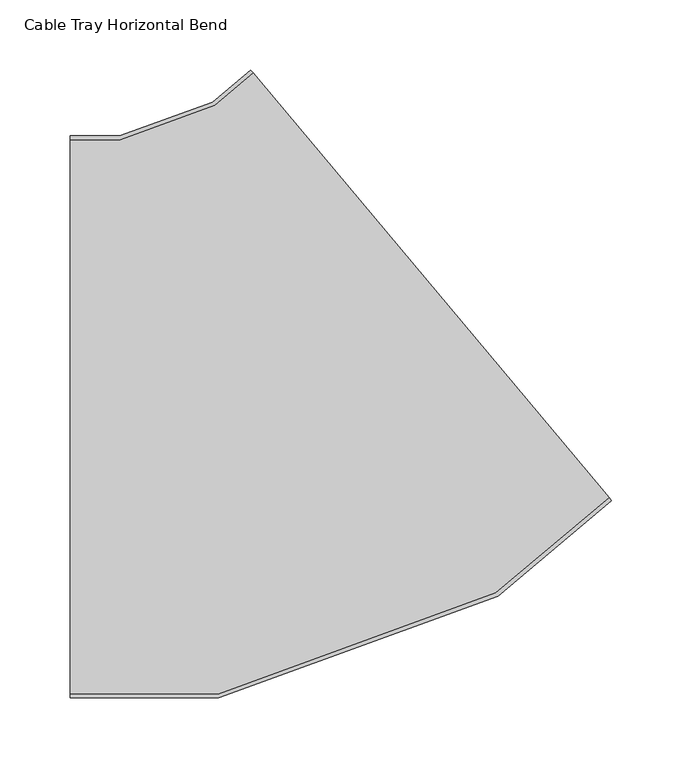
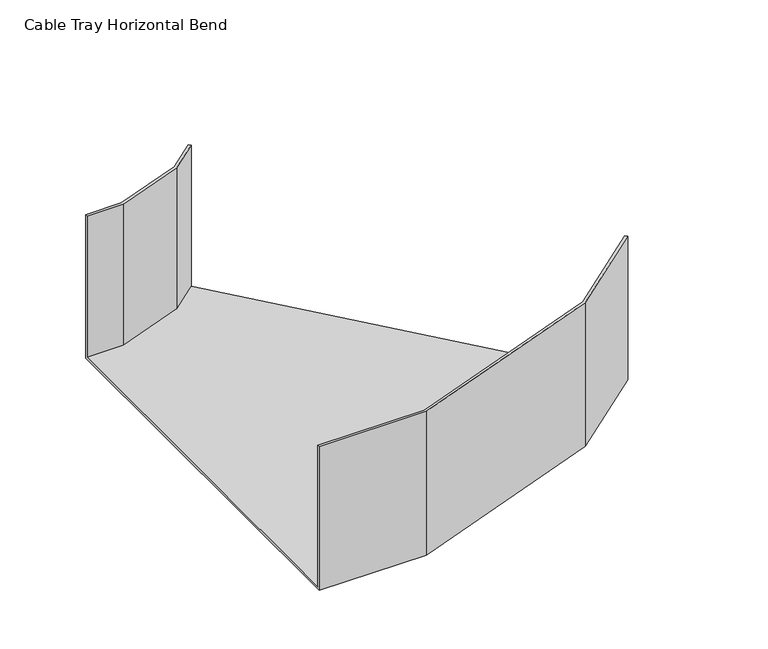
"""IFC4 building model written with IfcOpenShell, lengths in millimetres: cable carrier fitting geometry, Cable Tray Horizontal Bend : ELEC_ELV_TKG_N2402."""

from ifc_helpers import new_model, si_unit, origin, place, context, project, spatial, faceted_brep, source, transform, mapped, element, save


def cable_tray_horizontal_bend_376117d4(model_context):
    return source(origin(), model_context, "Body", "Brep", [
        faceted_brep([(-145.5880937, -200.0, -75.0), (-145.5880937, -200.0, 75.0), (-145.5880937, -197.46, 75.0), (-145.5880937, -197.46, -72.46), (-145.5880937, 197.46, -72.46), (-145.5880937, 197.46, 75.0), (-145.5880937, 200.0, 75.0), (-145.5880937, 200.0, -75.0), (240.0844721, -59.6266659, -75.0), (-17.0305718, 246.7911114, -75.0), (-17.0305718, 246.7911114, 75.0), (-15.3978912, 244.8453585, 75.0), (-15.3978912, 244.8453585, -72.46), (238.4517916, -57.680913, -72.46), (238.4517916, -57.680913, 75.0), (240.0844721, -59.6266659, 75.0), (-39.7919053, -200.0, -75.0), (-39.7919053, -200.0, 75.0), (159.0398899, -127.6311449, 75.0), (157.7502981, -125.3975064, 75.0), (-40.2397758, -197.46, 75.0), (-40.2397758, -197.46, -72.46), (157.7502981, -125.3975064, -72.46), (-42.7558407, 221.8893132, -72.46), (-109.874827, 197.46, -72.46), (-109.874827, 197.46, 75.0), (-42.7558407, 221.8893132, 75.0), (-44.0454325, 224.1229517, 75.0), (-110.3226976, 200.0, 75.0), (-110.3226976, 200.0, -75.0), (-44.0454325, 224.1229517, -75.0), (159.0398899, -127.6311449, -75.0)], [[[0, 1, 2, 3, 4, 5, 6, 7]], [[8, 9, 10, 11, 12, 13, 14, 15]], [[1, 0, 16, 17]], [[2, 1, 17, 18, 15, 14, 19, 20]], [[3, 2, 20, 21]], [[4, 3, 21, 22, 13, 12, 23, 24]], [[5, 4, 24, 25]], [[6, 5, 25, 26, 11, 10, 27, 28]], [[7, 6, 28, 29]], [[0, 7, 29, 30, 9, 8, 31, 16]], [[17, 16, 31, 18]], [[21, 20, 19, 22]], [[25, 24, 23, 26]], [[29, 28, 27, 30]], [[18, 31, 8, 15]], [[22, 19, 14, 13]], [[26, 23, 12, 11]], [[30, 27, 10, 9]]]),
    ])


if __name__ == "__main__":
    model = new_model("IFC4")
    model_context = context("Model", 3, world=origin())
    ifc_project = project(units=[si_unit("LENGTHUNIT", "METRE", prefix="MILLI")], contexts=[model_context])
    site = spatial("IfcSite", under=ifc_project)
    building = spatial("IfcBuilding", under=site)
    placement = place(None, origin())
    cable_tray_horizontal_bend_shape = cable_tray_horizontal_bend_376117d4(model_context)
    element("IfcCableCarrierFitting", 1, ObjectType="Cable Tray Horizontal Bend : ELEC_ELV_TKG_N2402", at=placement, inside=building, context=model_context, shape_type="MappedRepresentation", body=[
        mapped(cable_tray_horizontal_bend_shape, transform((0.0, 0.0, 0.0), x_axis=(1.0, 0.0, 0.0), y_axis=(0.0, 1.0, 0.0), z_axis=(0.0, 0.0, 1.0))),
    ])
    save(model, "model.ifc")
